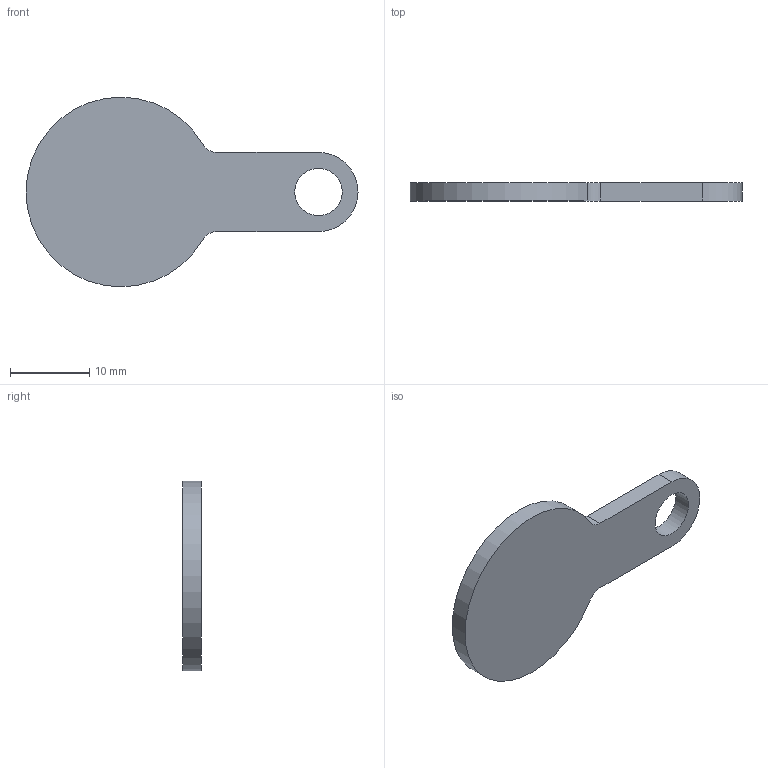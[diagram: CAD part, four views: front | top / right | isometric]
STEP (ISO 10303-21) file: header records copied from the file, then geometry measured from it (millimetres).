
FILE_DESCRIPTION(/* description */ (''),/* implementation_level */ '2;1');
FILE_NAME(/* name */ 'Shopping Cart Key (Europe) v0.step',/* time_stamp */ '2023-02-24T17:19:16+01:00',/* author */ (''),/* organization */ (''),/* preprocessor_version */ 'ST-DEVELOPER v19.2',/* originating_system */ 'Autodesk Translation Framework v11.17.0.187',/* authorisation */ '');
FILE_SCHEMA (('AUTOMOTIVE_DESIGN { 1 0 10303 214 3 1 1 }'));
Length unit declared in the file: millimetre
Products named in the file (1): Shopping Cart Key (Europe)
Bounding box: 42 x 2.3 x 24 mm (x, y, z)
Volume: 1374.1 mm3; surface area: 1487.7 mm2
Topology: 1 solids, 1 shells, 9 faces, 21 edges, 14 vertices
Faces by surface type: cylinder 5, plane 4
Full cylindrical faces by diameter (mm): 6 x1
Entity records: 302 total; most frequent: DIRECTION 51, CARTESIAN_POINT 45, ORIENTED_EDGE 42, EDGE_CURVE 21, AXIS2_PLACEMENT_3D 20, VERTEX_POINT 14, EDGE_LOOP 11, LINE 11
